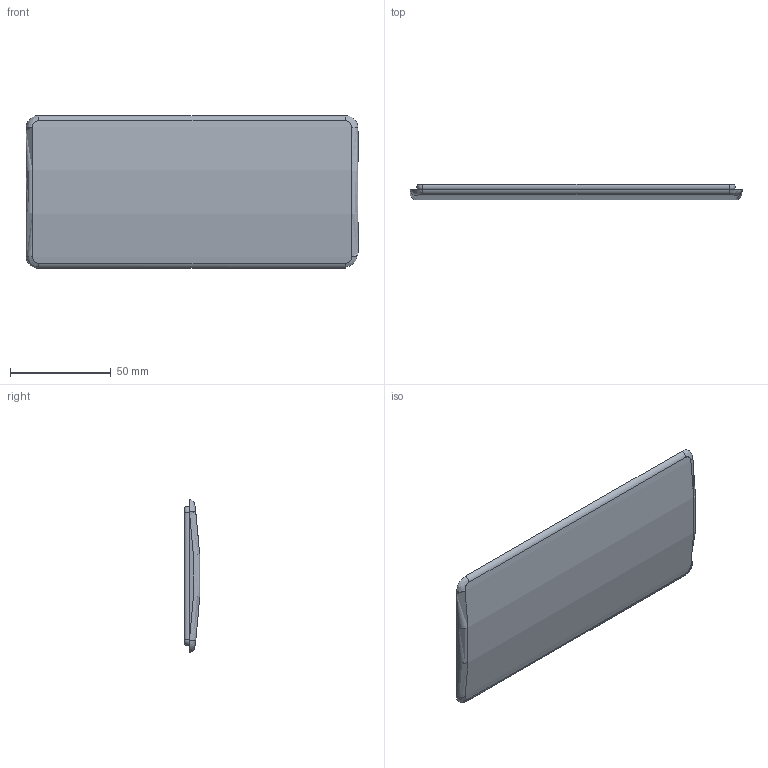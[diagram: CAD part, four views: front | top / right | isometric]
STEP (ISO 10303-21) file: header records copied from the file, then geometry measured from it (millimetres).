
FILE_DESCRIPTION (( 'STEP AP203' ), '1' );
FILE_NAME ('Phone MU2 Back cover.STEP', '2025-12-16T02:10:54', ( '' ), ( '' ), 'SwSTEP 2.0', 'SolidWorks 2024', '' );
FILE_SCHEMA (( 'CONFIG_CONTROL_DESIGN' ));
Length unit declared in the file: inch
Products named in the file (1): Phone MU2 Back cover
Bounding box: 165.1 x 7.69 x 76.05 mm (x, y, z)
Volume: 74257.9 mm3; surface area: 37810.4 mm2
Topology: 1 solids, 2 shells, 128 faces, 357 edges, 233 vertices
Faces by surface type: plane 69, cylinder 49, torus 6, bspline 4
Entity records: 4596 total; most frequent: CARTESIAN_POINT 1159, ORIENTED_EDGE 714, DIRECTION 702, EDGE_CURVE 357, AXIS2_PLACEMENT_3D 237, VERTEX_POINT 233, VECTOR 228, LINE 228
